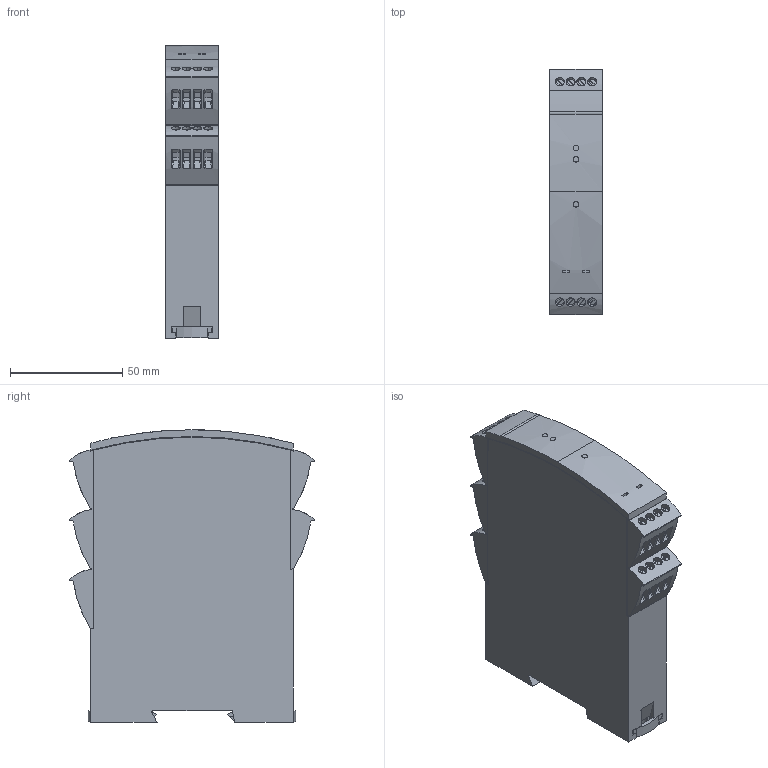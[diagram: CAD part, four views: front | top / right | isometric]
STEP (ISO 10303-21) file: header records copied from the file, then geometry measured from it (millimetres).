
FILE_DESCRIPTION (( 'STEP AP214' ), '1' );
FILE_NAME ('5000 Complete asm.STEP', '2017-05-19T09:50:28', ( '' ), ( '' ), 'SwSTEP 2.0', 'SolidWorks 2017', '' );
FILE_SCHEMA (( 'AUTOMOTIVE_DESIGN' ));
Length unit declared in the file: millimetre
Products named in the file (3): 5000 Complete asm; Lock Bottom; 5000 Housing
Assembly tree (3 placements, depth 2):
  5000 Complete asm
    5000 Housing
    Lock Bottom  x2
Bounding box: 23.5 x 109 x 130 mm (x, y, z)
Volume: 276914.6 mm3; surface area: 42742.3 mm2
Topology: 3 solids, 3 shells, 661 faces, 1818 edges, 1210 vertices
Faces by surface type: plane 467, cylinder 190, bspline 4
Entity records: 20682 total; most frequent: CARTESIAN_POINT 5904, ORIENTED_EDGE 3288, DIRECTION 2764, EDGE_CURVE 1644, VERTEX_POINT 1095, VECTOR 1086, LINE 1086, AXIS2_PLACEMENT_3D 839
